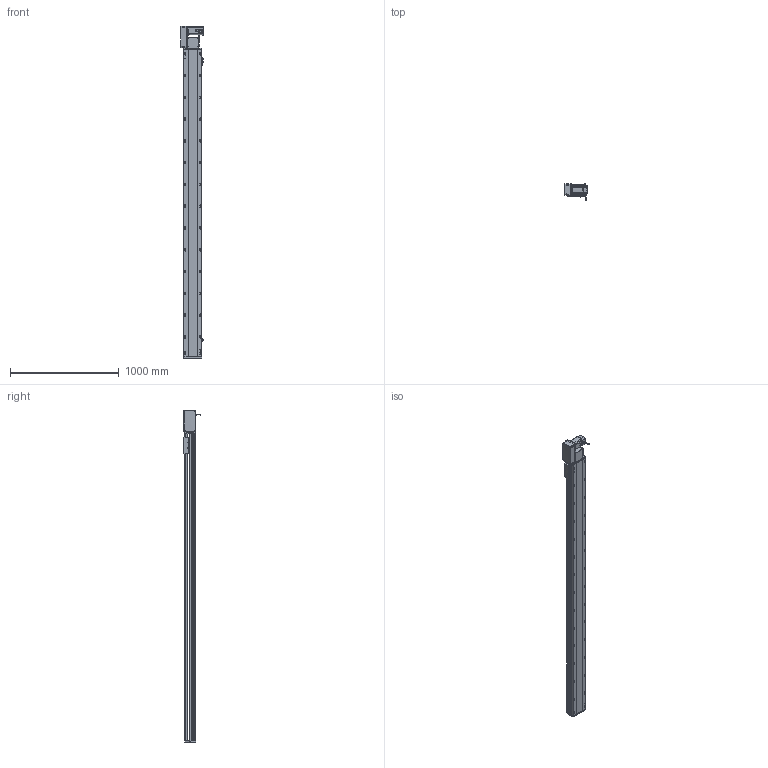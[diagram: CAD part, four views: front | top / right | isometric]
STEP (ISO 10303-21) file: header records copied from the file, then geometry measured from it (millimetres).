
FILE_DESCRIPTION (( 'STEP AP214' ), '1' );
FILE_NAME ('RTB17S-XX-2550-L-M75-C4.STEP', '2025-12-12T00:22:02', ( '' ), ( '' ), 'SwSTEP 2.0', 'SolidWorks 2018', '' );
FILE_SCHEMA (( 'AUTOMOTIVE_DESIGN' ));
Length unit declared in the file: millimetre
Products named in the file (15): RTB17S-L-007奻裔^RTB17S-XX-XX-L-M75-C4; RTB22S-GY-017P^RTB17S-L-々湍釱蚾饜-750W_RTB17S-XX-XX-L-M75-C4; RTH13-BL-012覜茼え俋离^RTB17S-賑釱_RTB17S-XX-XX-L-M75-C4; RMP17S-L-014-T20-P75--々湍釱^RTB17S-L-々湍釱蚾饜-750W_RTB17S-XX-XX-L-M75-C4; RTB17S-XX-2550-L-M75-C4; RTB17S-賑釱^RTB17S-XX-XX-L-M75-C4; RTB17-R-011菁釱^RTB17S-XX-XX-L-M75-C4; RTB22S-GY-008-M75--萇儂啣^RTB17S-L-々湍釱蚾饜-750W_RTB17S-XX-XX-L-M75-C4; EE672^RTB17S-XX-XX-L-M75-C4; RTB17S-L-々湍釱蚾饜-750W^RTB17S-XX-XX-L-M75-C4; RTB22S-GY-005P^RTB17S-L-々湍釱蚾饜-750W_RTB17S-XX-XX-L-M75-C4; RTB22S-GY-018P^RTB17S-L-々湍釱蚾饜-750W_RTB17S-XX-XX-L-M75-C4; 750W萇儂^RTB17S-XX-XX-L-M75-C4; RTB17S-L-001-耜醱啣^RTB17S-XX-XX-L-M75-C4; RTB17S-L-004-賑釱^RTB17S-賑釱_RTB17S-XX-XX-L-M75-C4
Assembly tree (17 placements, depth 3):
  RTB17S-XX-2550-L-M75-C4
    RTB17-R-011菁釱^RTB17S-XX-XX-L-M75-C4
    EE672^RTB17S-XX-XX-L-M75-C4  x3
    RTB17S-L-001-耜醱啣^RTB17S-XX-XX-L-M75-C4
    RTB17S-賑釱^RTB17S-XX-XX-L-M75-C4
      RTB17S-L-004-賑釱^RTB17S-賑釱_RTB17S-XX-XX-L-M75-C4
      RTH13-BL-012覜茼え俋离^RTB17S-賑釱_RTB17S-XX-XX-L-M75-C4
    RTB17S-L-007奻裔^RTB17S-XX-XX-L-M75-C4
    750W萇儂^RTB17S-XX-XX-L-M75-C4
    RTB17S-L-々湍釱蚾饜-750W^RTB17S-XX-XX-L-M75-C4
      RMP17S-L-014-T20-P75--々湍釱^RTB17S-L-々湍釱蚾饜-750W_RTB17S-XX-XX-L-M75-C4
      RTB22S-GY-005P^RTB17S-L-々湍釱蚾饜-750W_RTB17S-XX-XX-L-M75-C4
      RTB22S-GY-017P^RTB17S-L-々湍釱蚾饜-750W_RTB17S-XX-XX-L-M75-C4  x2
      RTB22S-GY-008-M75--萇儂啣^RTB17S-L-々湍釱蚾饜-750W_RTB17S-XX-XX-L-M75-C4
      RTB22S-GY-018P^RTB17S-L-々湍釱蚾饜-750W_RTB17S-XX-XX-L-M75-C4
Bounding box: 210.4 x 152.7 x 3049 mm (x, y, z)
Volume: 21890435.3 mm3; surface area: 3974829.3 mm2
Topology: 17 solids, 17 shells, 2217 faces, 6214 edges, 4022 vertices
Faces by surface type: plane 986, cylinder 815, bspline 294, cone 110, sphere 8, torus 4
Entity records: 64246 total; most frequent: CARTESIAN_POINT 19078, ORIENTED_EDGE 9272, DIRECTION 8582, EDGE_CURVE 4636, AXIS2_PLACEMENT_3D 3042, VERTEX_POINT 3026, VECTOR 2498, LINE 2498
